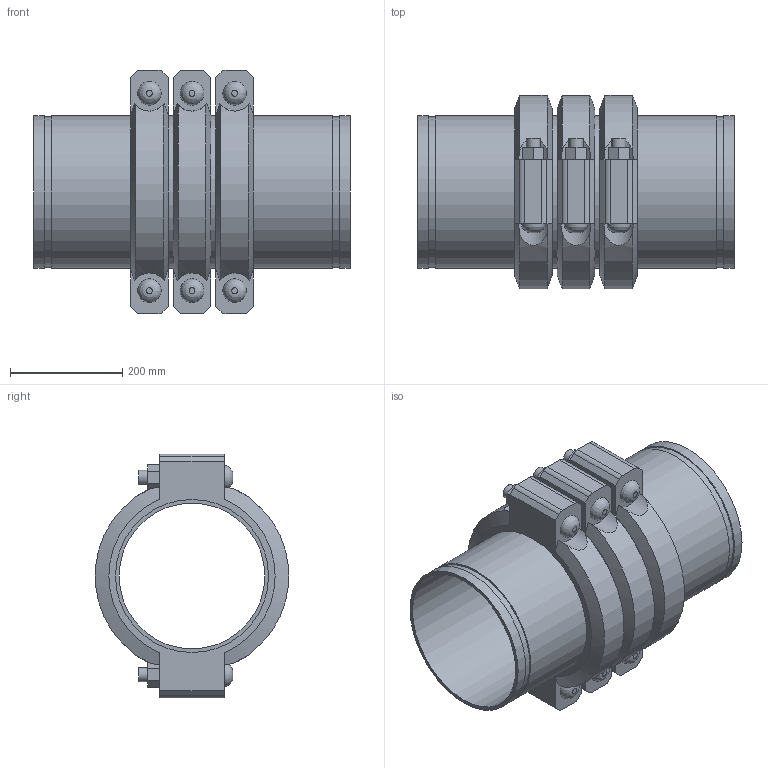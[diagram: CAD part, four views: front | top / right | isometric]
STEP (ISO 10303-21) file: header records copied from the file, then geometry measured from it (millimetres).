
FILE_DESCRIPTION(/* description */ ('VIC EXPANSION JOINT 3 COUPLINGS EXPANDED STYLE 155 (OGS)','CAx-IF Rec.Pracs.---Representation and Presentation of Product Manufacturing Information (PMI)---4.0---2014-10-13'),/* implementation_level */ '2;1');
FILE_NAME(/* name */ 'C:\Users\kkamble\AppData\Roaming\Autodesk\ApplicationPlugins\Victaulic.Temp\A258\Victaulic_IPS_Expansion Joint_Expanded_3 Couplings_Style 155 (OGS)_10 (250).stp',/* time_stamp */ '2021-06-26T23:59:00+02:00',/* author */ ('kkamble'),/* organization */ ('Victaulic'),/* preprocessor_version */ 'ST-DEVELOPER v17.2',/* originating_system */ 'Autodesk Inventor 2019',/* authorisation */ '');
FILE_SCHEMA (('AP242_MANAGED_MODEL_BASED_3D_ENGINEERING_MIM_LF { 1 0 10303 442 1 1 4 }'));
Length unit declared in the file: inch
Products named in the file (4): 155-10.0; Nipple-10.0; Nipple-10.0_1; 077-10.0
Assembly tree (7 placements, depth 2):
  155-10.0
    Nipple-10.0  x2
    Nipple-10.0_1  x2
    077-10.0  x3
Bounding box: 565.15 x 344.9 x 435.1 mm (x, y, z)
Volume: 11550527.6 mm3; surface area: 1844572.8 mm2
Topology: 7 solids, 13 shells, 231 faces, 555 edges, 390 vertices
Faces by surface type: plane 132, cylinder 81, cone 12, bspline 6
Full cylindrical faces by diameter (mm): 25.4 x12, 27.432 x6, 260.35 x4, 264.16 x3, 268.275 x8, 273.05 x18
Entity records: 3041 total; most frequent: CARTESIAN_POINT 671, DIRECTION 469, ORIENTED_EDGE 410, EDGE_CURVE 205, AXIS2_PLACEMENT_3D 190, VERTEX_POINT 146, EDGE_LOOP 111, CIRCLE 96
